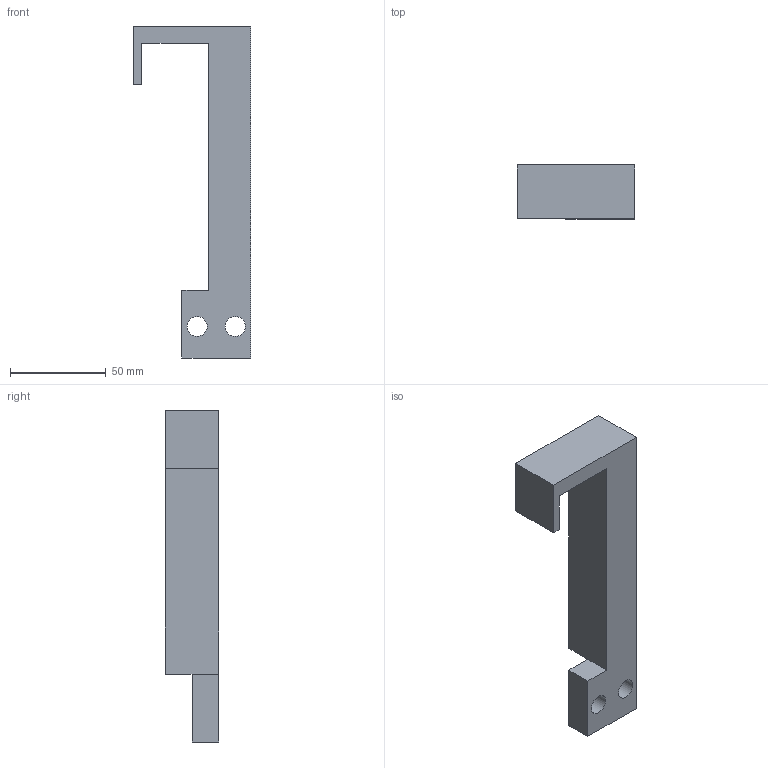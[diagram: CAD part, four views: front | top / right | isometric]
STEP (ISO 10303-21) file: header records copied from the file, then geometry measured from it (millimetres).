
FILE_DESCRIPTION(('Open CASCADE Model'),'2;1');
FILE_NAME('Open CASCADE Shape Model','2026-10-17T22:10:42',('Author'),( 'Open CASCADE'),'Open CASCADE STEP processor 7.9','Open CASCADE 7.9' ,'Unknown');
FILE_SCHEMA(('AUTOMOTIVE_DESIGN { 1 0 10303 214 1 1 1 1 }'));
Length unit declared in the file: millimetre
Products named in the file (1): Open CASCADE STEP translator 7.9 3
Bounding box: 61.4 x 28 x 173.8 mm (x, y, z)
Volume: 113239.8 mm3; surface area: 23890.3 mm2
Topology: 1 solids, 1 shells, 16 faces, 42 edges, 28 vertices
Faces by surface type: plane 14, cylinder 2
Full cylindrical faces by diameter (mm): 10.5 x2
Entity records: 1056 total; most frequent: CARTESIAN_POINT 205, DIRECTION 150, LINE 108, VECTOR 108, ORIENTED_EDGE 84, PCURVE 84, DEFINITIONAL_REPRESENTATION 84, EDGE_CURVE 42
